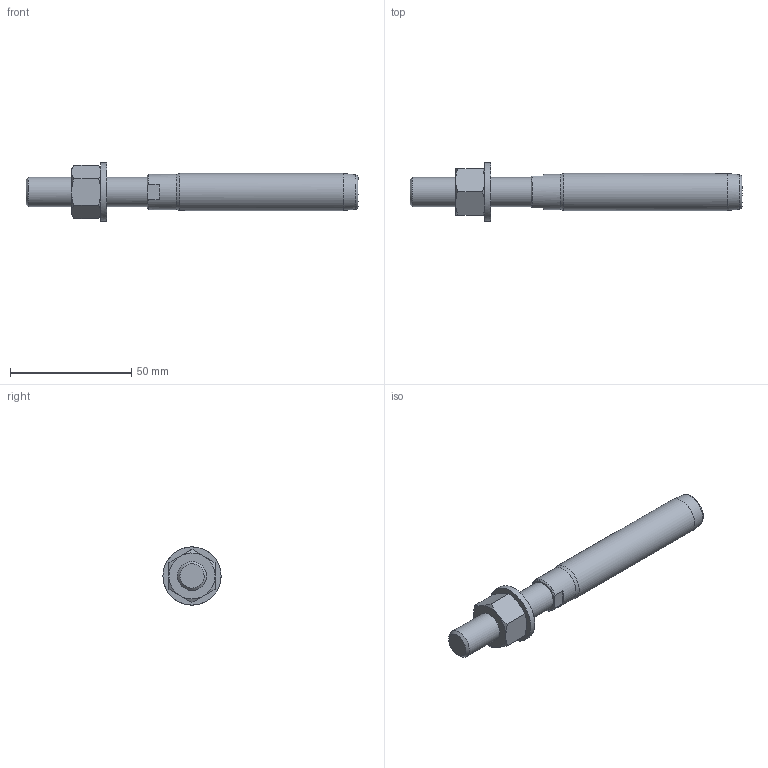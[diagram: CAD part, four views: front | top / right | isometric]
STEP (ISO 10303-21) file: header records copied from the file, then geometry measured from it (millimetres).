
FILE_DESCRIPTION(/* description */ (''),/* implementation_level */ '2;1');
FILE_NAME(/* name */ 'FLT 08_42CrMo4',/* time_stamp */ '2023-05-23T15:57:49+02:00',/* author */ (''),/* organization */ (''),/* preprocessor_version */ 'ST-DEVELOPER v16.5',/* originating_system */ 'Rhino 7.22',/* authorisation */ '');
FILE_SCHEMA (('CONFIG_CONTROL_DESIGN'));
Length unit declared in the file: millimetre
Products named in the file (1): Document
Bounding box: 137 x 23.99 x 23.99 mm (x, y, z)
Volume: 24804.9 mm3; surface area: 8807 mm2
Topology: 3 solids, 3 shells, 43 faces, 103 edges, 67 vertices
Faces by surface type: bspline 20, plane 17, cylinder 6
Full cylindrical faces by diameter (mm): 10.106 x1, 12 x1, 13 x1, 14.5 x1, 15.3 x1, 24 x1
Entity records: 1586 total; most frequent: CARTESIAN_POINT 881, ORIENTED_EDGE 206, EDGE_CURVE 103, VERTEX_POINT 67, EDGE_LOOP 48, ADVANCED_FACE 43, FACE_OUTER_BOUND 43, DIRECTION 27
